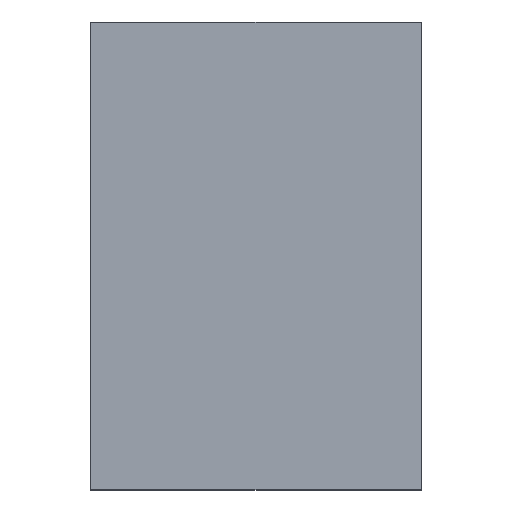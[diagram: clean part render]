
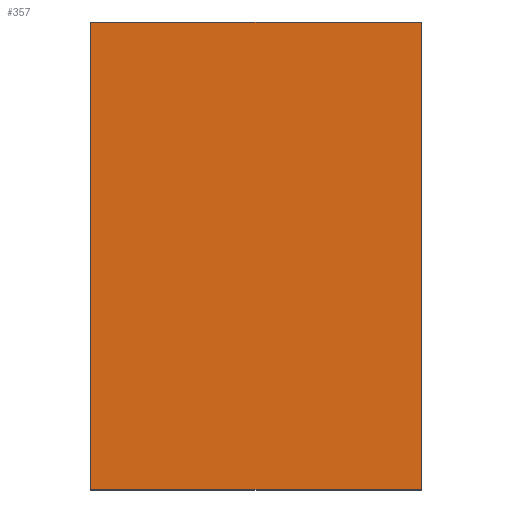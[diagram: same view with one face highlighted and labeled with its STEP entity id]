
A CAD part, top view. The second image highlights one B-rep face of the part: STEP entity #357.
In plain terms, the highlighted planar face has unit normal (0, 0, 1).
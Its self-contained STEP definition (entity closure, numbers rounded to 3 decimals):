
#43 = VERTEX_POINT('',#44);
#44 = CARTESIAN_POINT('',(-3.25,7.3,13.1));
#51 = PLANE('',#52);
#52 = AXIS2_PLACEMENT_3D('',#53,#54,#55);
#53 = CARTESIAN_POINT('',(-3.25,7.3,0.));
#54 = DIRECTION('',(0.,1.,0.));
#55 = DIRECTION('',(1.,0.,0.));
#63 = PLANE('',#64);
#64 = AXIS2_PLACEMENT_3D('',#65,#66,#67);
#65 = CARTESIAN_POINT('',(-3.25,-4.7,0.));
#66 = DIRECTION('',(-1.,0.,0.));
#67 = DIRECTION('',(0.,1.,0.));
#75 = EDGE_CURVE('',#43,#76,#78,.T.);
#76 = VERTEX_POINT('',#77);
#77 = CARTESIAN_POINT('',(5.25,7.3,13.1));
#78 = SURFACE_CURVE('',#79,(#83,#90),.PCURVE_S1.);
#79 = LINE('',#80,#81);
#80 = CARTESIAN_POINT('',(-3.25,7.3,13.1));
#81 = VECTOR('',#82,1.);
#82 = DIRECTION('',(1.,0.,0.));
#83 = PCURVE('',#51,#84);
#84 = DEFINITIONAL_REPRESENTATION('',(#85),#89);
#85 = LINE('',#86,#87);
#86 = CARTESIAN_POINT('',(0.,-13.1));
#87 = VECTOR('',#88,1.);
#88 = DIRECTION('',(1.,0.));
#89 = ( GEOMETRIC_REPRESENTATION_CONTEXT(2) 
PARAMETRIC_REPRESENTATION_CONTEXT() REPRESENTATION_CONTEXT('2D SPACE',''
  ) );
#90 = PCURVE('',#91,#96);
#91 = PLANE('',#92);
#92 = AXIS2_PLACEMENT_3D('',#93,#94,#95);
#93 = CARTESIAN_POINT('',(1.,1.3,13.1));
#94 = DIRECTION('',(-0.,-0.,-1.));
#95 = DIRECTION('',(-1.,0.,0.));
#96 = DEFINITIONAL_REPRESENTATION('',(#97),#101);
#97 = LINE('',#98,#99);
#98 = CARTESIAN_POINT('',(4.25,6.));
#99 = VECTOR('',#100,1.);
#100 = DIRECTION('',(-1.,0.));
#101 = ( GEOMETRIC_REPRESENTATION_CONTEXT(2) 
PARAMETRIC_REPRESENTATION_CONTEXT() REPRESENTATION_CONTEXT('2D SPACE',''
  ) );
#119 = PLANE('',#120);
#120 = AXIS2_PLACEMENT_3D('',#121,#122,#123);
#121 = CARTESIAN_POINT('',(5.25,7.3,0.));
#122 = DIRECTION('',(1.,0.,-0.));
#123 = DIRECTION('',(0.,-1.,0.));
#161 = EDGE_CURVE('',#76,#162,#164,.T.);
#162 = VERTEX_POINT('',#163);
#163 = CARTESIAN_POINT('',(5.25,-4.7,13.1));
#164 = SURFACE_CURVE('',#165,(#169,#176),.PCURVE_S1.);
#165 = LINE('',#166,#167);
#166 = CARTESIAN_POINT('',(5.25,7.3,13.1));
#167 = VECTOR('',#168,1.);
#168 = DIRECTION('',(0.,-1.,0.));
#169 = PCURVE('',#119,#170);
#170 = DEFINITIONAL_REPRESENTATION('',(#171),#175);
#171 = LINE('',#172,#173);
#172 = CARTESIAN_POINT('',(0.,-13.1));
#173 = VECTOR('',#174,1.);
#174 = DIRECTION('',(1.,0.));
#175 = ( GEOMETRIC_REPRESENTATION_CONTEXT(2) 
PARAMETRIC_REPRESENTATION_CONTEXT() REPRESENTATION_CONTEXT('2D SPACE',''
  ) );
#176 = PCURVE('',#91,#177);
#177 = DEFINITIONAL_REPRESENTATION('',(#178),#182);
#178 = LINE('',#179,#180);
#179 = CARTESIAN_POINT('',(-4.25,6.));
#180 = VECTOR('',#181,1.);
#181 = DIRECTION('',(0.,-1.));
#182 = ( GEOMETRIC_REPRESENTATION_CONTEXT(2) 
PARAMETRIC_REPRESENTATION_CONTEXT() REPRESENTATION_CONTEXT('2D SPACE',''
  ) );
#200 = PLANE('',#201);
#201 = AXIS2_PLACEMENT_3D('',#202,#203,#204);
#202 = CARTESIAN_POINT('',(5.25,-4.7,0.));
#203 = DIRECTION('',(0.,-1.,0.));
#204 = DIRECTION('',(-1.,0.,0.));
#237 = EDGE_CURVE('',#162,#238,#240,.T.);
#238 = VERTEX_POINT('',#239);
#239 = CARTESIAN_POINT('',(-3.25,-4.7,13.1));
#240 = SURFACE_CURVE('',#241,(#245,#252),.PCURVE_S1.);
#241 = LINE('',#242,#243);
#242 = CARTESIAN_POINT('',(5.25,-4.7,13.1));
#243 = VECTOR('',#244,1.);
#244 = DIRECTION('',(-1.,0.,0.));
#245 = PCURVE('',#200,#246);
#246 = DEFINITIONAL_REPRESENTATION('',(#247),#251);
#247 = LINE('',#248,#249);
#248 = CARTESIAN_POINT('',(0.,-13.1));
#249 = VECTOR('',#250,1.);
#250 = DIRECTION('',(1.,0.));
#251 = ( GEOMETRIC_REPRESENTATION_CONTEXT(2) 
PARAMETRIC_REPRESENTATION_CONTEXT() REPRESENTATION_CONTEXT('2D SPACE',''
  ) );
#252 = PCURVE('',#91,#253);
#253 = DEFINITIONAL_REPRESENTATION('',(#254),#258);
#254 = LINE('',#255,#256);
#255 = CARTESIAN_POINT('',(-4.25,-6.));
#256 = VECTOR('',#257,1.);
#257 = DIRECTION('',(1.,0.));
#258 = ( GEOMETRIC_REPRESENTATION_CONTEXT(2) 
PARAMETRIC_REPRESENTATION_CONTEXT() REPRESENTATION_CONTEXT('2D SPACE',''
  ) );
#308 = EDGE_CURVE('',#238,#43,#309,.T.);
#309 = SURFACE_CURVE('',#310,(#314,#321),.PCURVE_S1.);
#310 = LINE('',#311,#312);
#311 = CARTESIAN_POINT('',(-3.25,-4.7,13.1));
#312 = VECTOR('',#313,1.);
#313 = DIRECTION('',(0.,1.,0.));
#314 = PCURVE('',#63,#315);
#315 = DEFINITIONAL_REPRESENTATION('',(#316),#320);
#316 = LINE('',#317,#318);
#317 = CARTESIAN_POINT('',(0.,-13.1));
#318 = VECTOR('',#319,1.);
#319 = DIRECTION('',(1.,0.));
#320 = ( GEOMETRIC_REPRESENTATION_CONTEXT(2) 
PARAMETRIC_REPRESENTATION_CONTEXT() REPRESENTATION_CONTEXT('2D SPACE',''
  ) );
#321 = PCURVE('',#91,#322);
#322 = DEFINITIONAL_REPRESENTATION('',(#323),#327);
#323 = LINE('',#324,#325);
#324 = CARTESIAN_POINT('',(4.25,-6.));
#325 = VECTOR('',#326,1.);
#326 = DIRECTION('',(0.,1.));
#327 = ( GEOMETRIC_REPRESENTATION_CONTEXT(2) 
PARAMETRIC_REPRESENTATION_CONTEXT() REPRESENTATION_CONTEXT('2D SPACE',''
  ) );
#357 = ADVANCED_FACE('',(#358),#91,.F.);
#358 = FACE_BOUND('',#359,.F.);
#359 = EDGE_LOOP('',(#360,#361,#362,#363));
#360 = ORIENTED_EDGE('',*,*,#75,.T.);
#361 = ORIENTED_EDGE('',*,*,#161,.T.);
#362 = ORIENTED_EDGE('',*,*,#237,.T.);
#363 = ORIENTED_EDGE('',*,*,#308,.T.);
